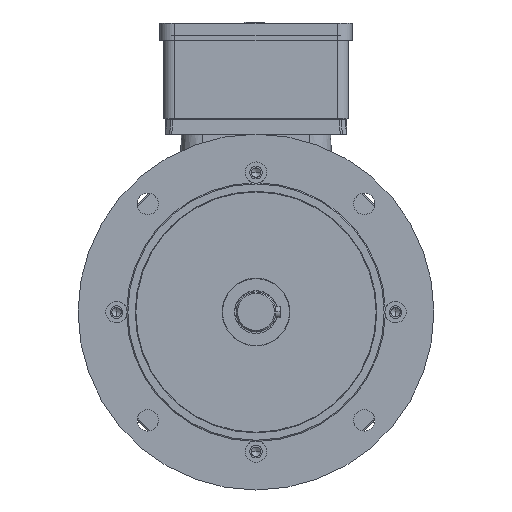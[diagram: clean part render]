
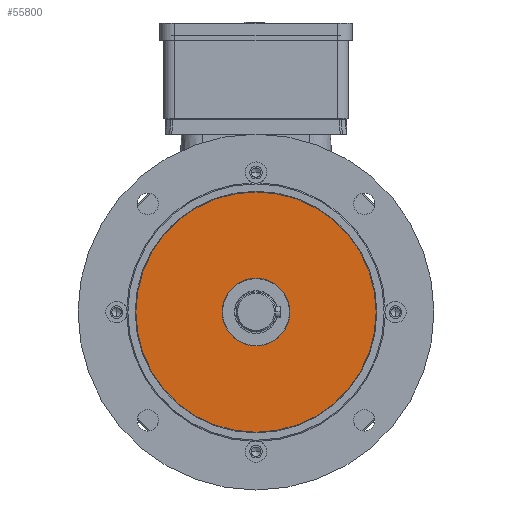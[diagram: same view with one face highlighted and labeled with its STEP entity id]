
A CAD part, top view. The second image highlights one B-rep face of the part: STEP entity #55800.
In plain terms, the highlighted planar face has unit normal (0, 0, 1).
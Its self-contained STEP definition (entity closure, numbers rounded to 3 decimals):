
#435 = CIRCLE ( 'NONE', #98158, 23.815 ) ;
#2500 = VERTEX_POINT ( 'NONE', #66151 ) ;
#11087 = VERTEX_POINT ( 'NONE', #66716 ) ;
#16190 = CARTESIAN_POINT ( 'NONE',  ( 0., 23.815, 164. ) ) ;
#19969 = CARTESIAN_POINT ( 'NONE',  ( 0., 0., 164. ) ) ;
#20568 = CIRCLE ( 'NONE', #48158, 84.388 ) ;
#21835 = AXIS2_PLACEMENT_3D ( 'NONE', #16190, #80509, #79448 ) ;
#31109 = CARTESIAN_POINT ( 'NONE',  ( -84.388, 0., 164. ) ) ;
#32690 = VERTEX_POINT ( 'NONE', #55068 ) ;
#34521 = FACE_BOUND ( 'NONE', #48527, .T. ) ;
#37345 = ORIENTED_EDGE ( 'NONE', *, *, #119593, .F. ) ;
#37977 = EDGE_CURVE ( 'NONE', #60264, #11087, #20568, .T. ) ;
#38483 = FACE_OUTER_BOUND ( 'NONE', #69407, .T. ) ;
#40544 = CARTESIAN_POINT ( 'NONE',  ( 0., 0., 164. ) ) ;
#41525 = PLANE ( 'NONE',  #21835 ) ;
#42547 = DIRECTION ( 'NONE',  ( -1., 0., 0. ) ) ;
#44729 = DIRECTION ( 'NONE',  ( 0., 0., 1. ) ) ;
#48158 = AXIS2_PLACEMENT_3D ( 'NONE', #112234, #88069, #75497 ) ;
#48527 = EDGE_LOOP ( 'NONE', ( #80414, #37345 ) ) ;
#49231 = DIRECTION ( 'NONE',  ( 1., 0., 0. ) ) ;
#52130 = CIRCLE ( 'NONE', #76035, 84.388 ) ;
#52727 = EDGE_CURVE ( 'NONE', #11087, #60264, #52130, .T. ) ;
#55068 = CARTESIAN_POINT ( 'NONE',  ( -23.815, 0., 164. ) ) ;
#55800 = ADVANCED_FACE ( 'NONE', ( #38483, #34521 ), #41525, .T. ) ;
#60264 = VERTEX_POINT ( 'NONE', #31109 ) ;
#66151 = CARTESIAN_POINT ( 'NONE',  ( 23.815, 0., 164. ) ) ;
#66226 = CIRCLE ( 'NONE', #74330, 23.815 ) ;
#66716 = CARTESIAN_POINT ( 'NONE',  ( 84.388, 0., 164. ) ) ;
#69407 = EDGE_LOOP ( 'NONE', ( #88007, #137817 ) ) ;
#74330 = AXIS2_PLACEMENT_3D ( 'NONE', #40544, #141133, #153208 ) ;
#75497 = DIRECTION ( 'NONE',  ( -1., 0., 0. ) ) ;
#76035 = AXIS2_PLACEMENT_3D ( 'NONE', #19969, #44729, #42547 ) ;
#79448 = DIRECTION ( 'NONE',  ( 1., 0., 0. ) ) ;
#80414 = ORIENTED_EDGE ( 'NONE', *, *, #156522, .F. ) ;
#80509 = DIRECTION ( 'NONE',  ( 0., 0., 1. ) ) ;
#88007 = ORIENTED_EDGE ( 'NONE', *, *, #52727, .T. ) ;
#88069 = DIRECTION ( 'NONE',  ( 0., 0., 1. ) ) ;
#98158 = AXIS2_PLACEMENT_3D ( 'NONE', #161938, #135556, #49231 ) ;
#112234 = CARTESIAN_POINT ( 'NONE',  ( 0., 0., 164. ) ) ;
#119593 = EDGE_CURVE ( 'NONE', #32690, #2500, #66226, .T. ) ;
#135556 = DIRECTION ( 'NONE',  ( 0., 0., 1. ) ) ;
#137817 = ORIENTED_EDGE ( 'NONE', *, *, #37977, .T. ) ;
#141133 = DIRECTION ( 'NONE',  ( 0., 0., 1. ) ) ;
#153208 = DIRECTION ( 'NONE',  ( 1., 0., 0. ) ) ;
#156522 = EDGE_CURVE ( 'NONE', #2500, #32690, #435, .T. ) ;
#161938 = CARTESIAN_POINT ( 'NONE',  ( 0., 0., 164. ) ) ;
